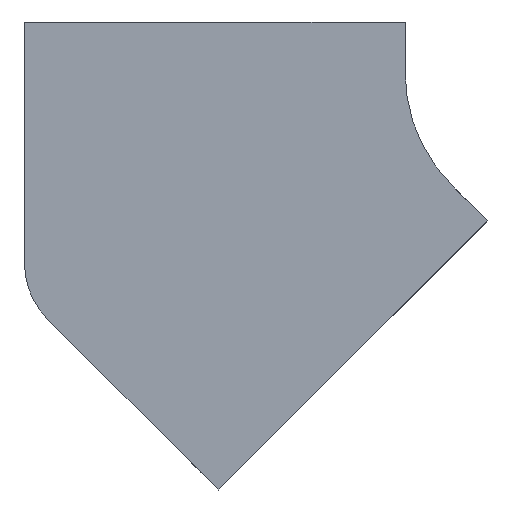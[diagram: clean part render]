
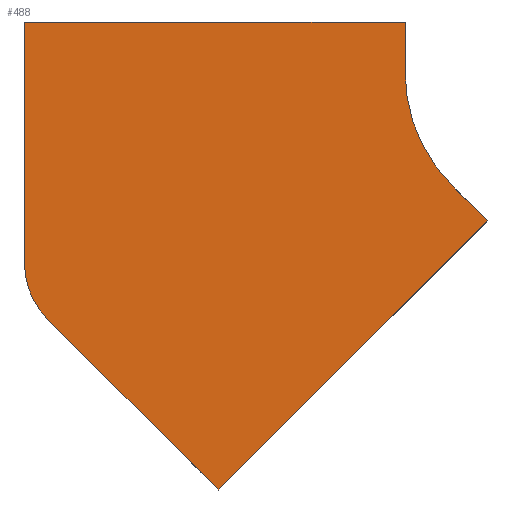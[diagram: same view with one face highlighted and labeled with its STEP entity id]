
A CAD part, front view. The second image highlights one B-rep face of the part: STEP entity #488.
In plain terms, the highlighted planar face has unit normal (0, -1, 0).
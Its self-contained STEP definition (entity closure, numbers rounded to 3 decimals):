
#39 = FACE_OUTER_BOUND ( 'NONE', #190, .T. ) ;
#97 = DIRECTION ( 'NONE',  ( -0.707, 0., -0.707 ) ) ;
#106 = VECTOR ( 'NONE', #717, 1000. ) ;
#181 = ORIENTED_EDGE ( 'NONE', *, *, #628, .F. ) ;
#187 = EDGE_CURVE ( 'NONE', #1031, #436, #1210, .T. ) ;
#190 = EDGE_LOOP ( 'NONE', ( #181, #285, #977, #1130, #1638, #524, #1069, #345 ) ) ;
#203 = CARTESIAN_POINT ( 'NONE',  ( -125., 0., 0. ) ) ;
#214 = CIRCLE ( 'NONE', #1567, 125. ) ;
#285 = ORIENTED_EDGE ( 'NONE', *, *, #979, .F. ) ;
#286 = CARTESIAN_POINT ( 'NONE',  ( -406.694, 0., -194.347 ) ) ;
#322 = CARTESIAN_POINT ( 'NONE',  ( -425., 0., -150.152 ) ) ;
#337 = CARTESIAN_POINT ( 'NONE',  ( -425., 0., 40. ) ) ;
#345 = ORIENTED_EDGE ( 'NONE', *, *, #959, .F. ) ;
#379 = LINE ( 'NONE', #887, #1237 ) ;
#419 = DIRECTION ( 'NONE',  ( 0., -1., 0. ) ) ;
#436 = VERTEX_POINT ( 'NONE', #506 ) ;
#438 = CARTESIAN_POINT ( 'NONE',  ( 0., 0., 0. ) ) ;
#451 = LINE ( 'NONE', #1236, #544 ) ;
#460 = LINE ( 'NONE', #588, #1109 ) ;
#469 = VERTEX_POINT ( 'NONE', #692 ) ;
#488 = ADVANCED_FACE ( 'NONE', ( #39 ), #677, .T. ) ;
#506 = CARTESIAN_POINT ( 'NONE',  ( -60.104, 0., -116.673 ) ) ;
#524 = ORIENTED_EDGE ( 'NONE', *, *, #187, .F. ) ;
#534 = EDGE_CURVE ( 'NONE', #1406, #1031, #214, .T. ) ;
#544 = VECTOR ( 'NONE', #848, 1000. ) ;
#557 = AXIS2_PLACEMENT_3D ( 'NONE', #438, #419, #818 ) ;
#586 = VERTEX_POINT ( 'NONE', #337 ) ;
#588 = CARTESIAN_POINT ( 'NONE',  ( -272.236, 0., -328.805 ) ) ;
#628 = EDGE_CURVE ( 'NONE', #586, #469, #857, .T. ) ;
#670 = VERTEX_POINT ( 'NONE', #1118 ) ;
#677 = PLANE ( 'NONE',  #557 ) ;
#692 = CARTESIAN_POINT ( 'NONE',  ( -125., 0., 40. ) ) ;
#717 = DIRECTION ( 'NONE',  ( 1., 0., 0. ) ) ;
#734 = DIRECTION ( 'NONE',  ( 0.707, 0., -0.707 ) ) ;
#813 = AXIS2_PLACEMENT_3D ( 'NONE', #1022, #1040, #1295 ) ;
#818 = DIRECTION ( 'NONE',  ( 0., 0., -1. ) ) ;
#833 = CARTESIAN_POINT ( 'NONE',  ( 0., 0., 0. ) ) ;
#848 = DIRECTION ( 'NONE',  ( 0., 0., -1. ) ) ;
#857 = LINE ( 'NONE', #1501, #106 ) ;
#865 = DIRECTION ( 'NONE',  ( 0., 0., 1. ) ) ;
#872 = CARTESIAN_POINT ( 'NONE',  ( -88.388, 0., -88.388 ) ) ;
#887 = CARTESIAN_POINT ( 'NONE',  ( -60.104, 0., -116.673 ) ) ;
#959 = EDGE_CURVE ( 'NONE', #469, #1406, #451, .T. ) ;
#977 = ORIENTED_EDGE ( 'NONE', *, *, #1139, .F. ) ;
#979 = EDGE_CURVE ( 'NONE', #670, #586, #1371, .T. ) ;
#989 = VERTEX_POINT ( 'NONE', #1243 ) ;
#1022 = CARTESIAN_POINT ( 'NONE',  ( -362.5, 0., -150.152 ) ) ;
#1027 = EDGE_CURVE ( 'NONE', #989, #1620, #460, .T. ) ;
#1031 = VERTEX_POINT ( 'NONE', #872 ) ;
#1038 = VECTOR ( 'NONE', #734, 1000. ) ;
#1040 = DIRECTION ( 'NONE',  ( 0., 1., 0. ) ) ;
#1068 = DIRECTION ( 'NONE',  ( 0., 0., -1. ) ) ;
#1069 = ORIENTED_EDGE ( 'NONE', *, *, #534, .F. ) ;
#1109 = VECTOR ( 'NONE', #1117, 1000. ) ;
#1117 = DIRECTION ( 'NONE',  ( -0.707, 0., 0.707 ) ) ;
#1118 = CARTESIAN_POINT ( 'NONE',  ( -425., 0., -150.152 ) ) ;
#1130 = ORIENTED_EDGE ( 'NONE', *, *, #1027, .F. ) ;
#1139 = EDGE_CURVE ( 'NONE', #1620, #670, #1541, .T. ) ;
#1210 = LINE ( 'NONE', #1519, #1038 ) ;
#1236 = CARTESIAN_POINT ( 'NONE',  ( -125., 0., 40. ) ) ;
#1237 = VECTOR ( 'NONE', #97, 1000. ) ;
#1243 = CARTESIAN_POINT ( 'NONE',  ( -272.236, 0., -328.805 ) ) ;
#1295 = DIRECTION ( 'NONE',  ( 0., 0., 1. ) ) ;
#1336 = DIRECTION ( 'NONE',  ( 0., -1., 0. ) ) ;
#1371 = LINE ( 'NONE', #322, #1568 ) ;
#1406 = VERTEX_POINT ( 'NONE', #203 ) ;
#1501 = CARTESIAN_POINT ( 'NONE',  ( -425., 0., 40. ) ) ;
#1505 = EDGE_CURVE ( 'NONE', #436, #989, #379, .T. ) ;
#1519 = CARTESIAN_POINT ( 'NONE',  ( -88.388, 0., -88.388 ) ) ;
#1541 = CIRCLE ( 'NONE', #813, 62.5 ) ;
#1567 = AXIS2_PLACEMENT_3D ( 'NONE', #833, #1336, #1068 ) ;
#1568 = VECTOR ( 'NONE', #865, 1000. ) ;
#1620 = VERTEX_POINT ( 'NONE', #286 ) ;
#1638 = ORIENTED_EDGE ( 'NONE', *, *, #1505, .F. ) ;
